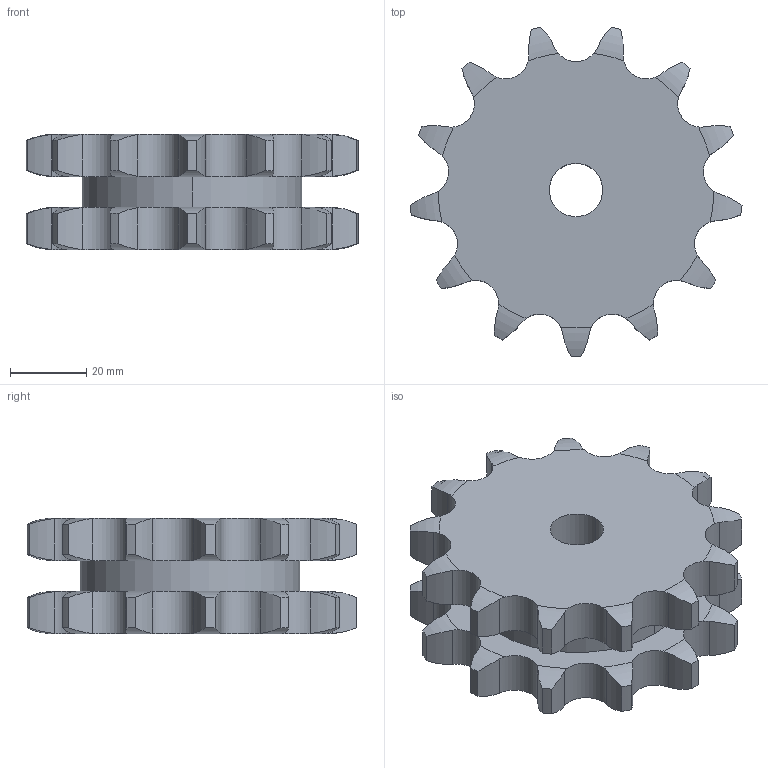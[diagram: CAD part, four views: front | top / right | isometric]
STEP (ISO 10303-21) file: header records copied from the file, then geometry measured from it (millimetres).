
FILE_DESCRIPTION((''),'2;1');
FILE_NAME('500-402-0013_PRT','2021-02-12T',('Brieden'),('Brieden'),'PRO/ENGINEER BY PARAMETRIC TECHNOLOGY CORPORATION, 2010160','PRO/ENGINEER BY PARAMETRIC TECHNOLOGY CORPORATION, 2010160','');
FILE_SCHEMA(('AUTOMOTIVE_DESIGN { 1 0 10303 214 1 1 1 1 }'));
Length unit declared in the file: millimetre
Products named in the file (1): 500-402-0013_PRT
Bounding box: 87.13 x 86.51 x 30.3 mm (x, y, z)
Volume: 114560.1 mm3; surface area: 23085.2 mm2
Topology: 1 solids, 1 shells, 164 faces, 480 edges, 320 vertices
Faces by surface type: cylinder 108, torus 52, plane 4
Entity records: 7730 total; most frequent: CARTESIAN_POINT 2111, ORIENTED_EDGE 960, DIRECTION 764, PRESENTATION_STYLE_ASSIGNMENT 481, STYLED_ITEM 481, CURVE_STYLE 480, EDGE_CURVE 480, AXIS2_PLACEMENT_3D 328
